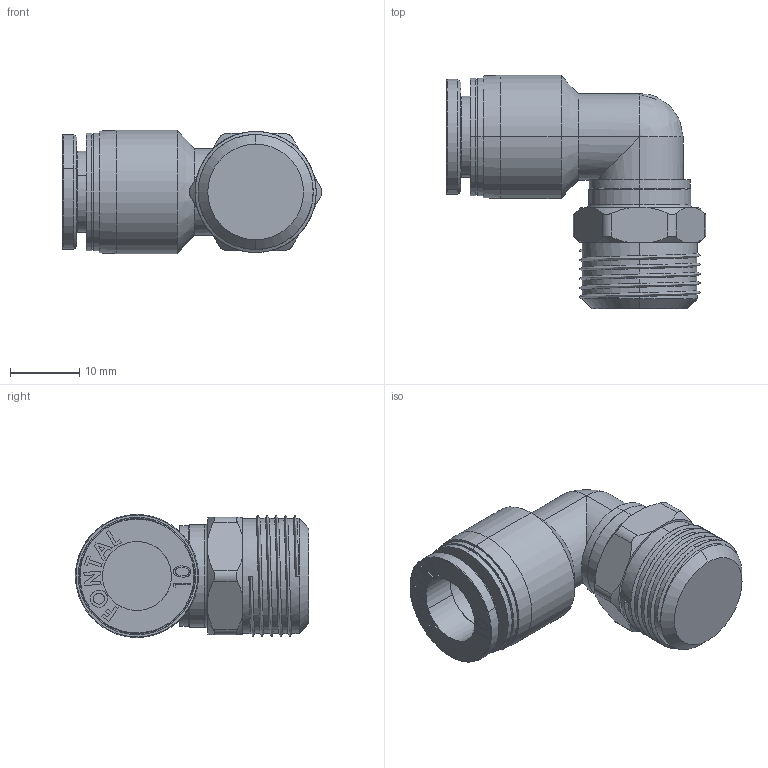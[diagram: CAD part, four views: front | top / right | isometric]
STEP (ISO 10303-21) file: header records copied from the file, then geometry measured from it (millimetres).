
FILE_DESCRIPTION (( 'STEP AP203' ), '1' );
FILE_NAME ('FPL10-03.STEP', '2016-01-14T21:02:51', ( '' ), ( '' ), 'SwSTEP 2.0', 'SolidWorks 2014', '' );
FILE_SCHEMA (( 'CONFIG_CONTROL_DESIGN' ));
Length unit declared in the file: millimetre
Products named in the file (4): FPL10-03-B; FPL10-02-A; FPC10-02-A; FPL10-03
Assembly tree (3 placements, depth 2):
  FPL10-03
    FPL10-02-A
    FPC10-02-A
    FPL10-03-B
Bounding box: 37.59 x 33.8 x 17.85 mm (x, y, z)
Volume: 8195.3 mm3; surface area: 4772.9 mm2
Topology: 3 solids, 3 shells, 177 faces, 436 edges, 282 vertices
Faces by surface type: plane 85, cylinder 44, cone 22, bspline 20, torus 6
Entity records: 9063 total; most frequent: CARTESIAN_POINT 4673, ORIENTED_EDGE 868, DIRECTION 745, EDGE_CURVE 434, VERTEX_POINT 282, AXIS2_PLACEMENT_3D 249, LINE 247, VECTOR 247
